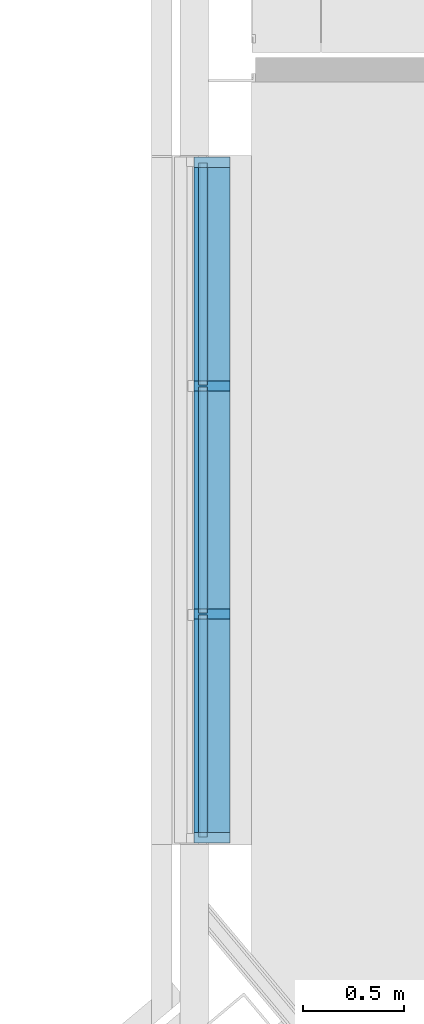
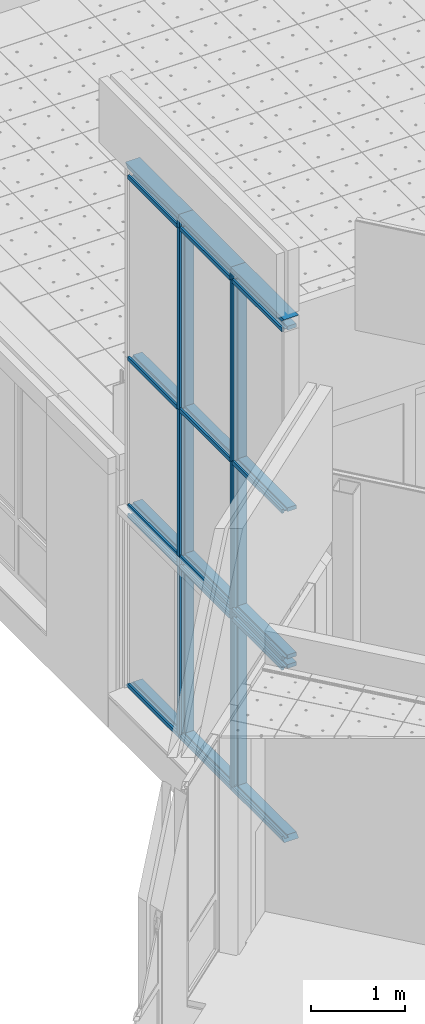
# One storey, part 1 of 338: 28 members, 1 element without a shape of its own.
"""IFC2X3 building model written with IfcOpenShell, lengths in millimetres."""

from ifc_helpers import new_model, entity, si_unit, converted_unit, derived_unit, money_unit, direction, frame, origin_with_axes, place, context, subcontext, project, spatial, faceted_brep, source, transform, mapped, material, type_object, type_shapes, element, aggregate, save


model = new_model("IFC2X3")

# Units and contexts
model_context = context("Model", 3, precision=0.01, world=origin_with_axes(), true_north=direction((0.0, 1.0)))
plan_context = context("Plan", 3, precision=0.01, world=origin_with_axes(), true_north=direction((0.0, 1.0)))
body_context = subcontext(model_context, "Body", "Model", "MODEL_VIEW")
ifc_project = project(units=[si_unit("LENGTHUNIT", "METRE", prefix="MILLI"), si_unit("AREAUNIT", "SQUARE_METRE"), si_unit("VOLUMEUNIT", "CUBIC_METRE"), converted_unit("PLANEANGLEUNIT", "DEGREE", entity("IfcPlaneAngleMeasure", 0.0174532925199), si_unit("PLANEANGLEUNIT", "RADIAN"), dimensions=[0, 0, 0, 0, 0, 0, 0]), money_unit("EUR"), converted_unit("TIMEUNIT", "Year", entity("IfcTimeMeasure", 31556926.0), si_unit("TIMEUNIT", "SECOND"), dimensions=[0, 0, 1, 0, 0, 0, 0]), si_unit("MASSUNIT", "GRAM", prefix="KILO"), si_unit("THERMODYNAMICTEMPERATUREUNIT", "DEGREE_CELSIUS"), si_unit("LUMINOUSINTENSITYUNIT", "LUMEN"), si_unit("ENERGYUNIT", "JOULE", prefix="MEGA"), derived_unit("THERMALCONDUCTANCEUNIT", [(si_unit("POWERUNIT", "WATT"), 1), (si_unit("LENGTHUNIT", "METRE"), -1), (si_unit("THERMODYNAMICTEMPERATUREUNIT", "KELVIN"), -1)]), derived_unit("SPECIFICHEATCAPACITYUNIT", [(si_unit("ENERGYUNIT", "JOULE"), 1), (si_unit("MASSUNIT", "GRAM", prefix="KILO"), -1), (si_unit("THERMODYNAMICTEMPERATUREUNIT", "KELVIN"), -1)]), derived_unit("MASSDENSITYUNIT", [(si_unit("MASSUNIT", "GRAM", prefix="KILO"), 1), (si_unit("VOLUMEUNIT", "CUBIC_METRE"), -1)])], contexts=[model_context, plan_context])

# Site, building, storey
site_placement = place(None, origin_with_axes())
site = spatial("IfcSite", under=ifc_project, at=site_placement, Name="Fortuinstraat Woensdrecht", CompositionType="ELEMENT")
building_placement = place(site_placement, origin_with_axes())
building = spatial("IfcBuilding", under=site, at=building_placement, Name="IKC Fortuna", CompositionType="ELEMENT")
storey_placement = place(building_placement, origin_with_axes())
storey = spatial("IfcBuildingStorey", under=building, at=storey_placement, Name="00 begane grond", CompositionType="ELEMENT", Elevation=0.0)

# Curtain wall, members
curtain_wall_type = type_object("IfcCurtainWallType", Name="Curtain Wall Type", PredefinedType="NOTDEFINED")
curtain_wall_placement = place(storey_placement, frame((13569.9121752, 15129.2768159, -0.000250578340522), z_axis=(0.0, 0.0, 1.0), x_axis=(1.0, 0.0, 0.0)))
curtain_wall = element("IfcCurtainWall", 1, at=curtain_wall_placement, inside=storey, type_object=curtain_wall_type, Name="21_Vliesgevel_Vliesgevel")
ifc_material = material(Name="ALG - ALGEMEEN")
member_type_1 = type_object("IfcMemberType", Name="Boundary Frame 50 x 180", PredefinedType="MULLION")
shared_shape_1 = source(origin_with_axes(), body_context, "Body", "Brep", [
    faceted_brep([(30.0, -22.0, 1100.00008352), (30.0, 22.0, 1100.00008352), (50.0, 22.0, 1080.00008352), (50.0, 46.5, 1080.00008352), (0.0, 46.5, 1130.00008352), (0.0, -133.5, 1130.00008352), (50.0, -133.5, 1080.00008352), (50.0, -22.0, 1080.00008352), (30.0, -22.0, 0.0), (30.0, 22.0, 0.0), (50.0, 22.0, 0.0), (50.0, 46.5, 0.0), (0.0, 46.5, 0.0), (0.0, -133.5, 0.0), (50.0, -133.5, 0.0), (50.0, -22.0, 0.0)], [[[0, 1, 2, 3, 4, 5, 6, 7]], [[1, 0, 8, 9]], [[10, 2, 1, 9]], [[2, 10, 11, 3]], [[12, 4, 3, 11]], [[13, 5, 4, 12]], [[14, 6, 5, 13]], [[15, 7, 6, 14]], [[0, 7, 15, 8]], [[8, 15, 14, 13, 12, 11, 10, 9]]]),
])
member_1_placement = place(curtain_wall_placement, frame((0.0, -1688.86262301, 0.0), z_axis=(0.0, -1.0, 0.0), x_axis=(0.0, 0.0, 1.0)))
member_1 = element("IfcMember", 2, at=member_1_placement, type_object=member_type_1, material=ifc_material, Name="_Vliesgevel - kader_Kader-x", ObjectType="MULLION", context=body_context, shape_type="MappedRepresentation", body=[
    mapped(shared_shape_1, transform((0.0, 0.0, 0.0))),
])
member_2_placement = place(curtain_wall_placement, frame((0.0, -565.0, 6800.00002205), z_axis=(0.0, 1.0, 0.0), x_axis=(0.0, 0.0, -1.0)))
member_2 = element("IfcMember", 3, at=member_2_placement, type_object=member_type_1, material=ifc_material, Name="_Vliesgevel - kader_Kader-x", ObjectType="MULLION", context=body_context, shape_type="MappedRepresentation", body=[
    mapped(shared_shape_1, transform((0.0, 0.0, 0.0))),
])
member_type_2 = type_object("IfcMemberType", Name="Mullion Frame 50 x 180", PredefinedType="MULLION")
shared_shape_2 = source(origin_with_axes(), body_context, "Body", "Brep", [
    faceted_brep([(-5.0, -22.0, 1914.5), (-25.0, -22.0, 1914.5), (-25.0, -133.5, 1914.5), (25.0, -133.5, 1914.5), (25.0, -22.0, 1914.5), (5.0, -22.0, 1914.5), (5.0, 22.0, 1914.5), (25.0, 22.0, 1914.5), (25.0, 46.5, 1914.5), (-25.0, 46.5, 1914.5), (-25.0, 22.0, 1914.5), (-5.0, 22.0, 1914.5), (-5.0, -22.0, 0.0), (-25.0, -22.0, 0.0), (-25.0, -133.5, 0.0), (25.0, -133.5, 0.0), (25.0, -22.0, 0.0), (5.0, -22.0, 0.0), (5.0, 22.0, 0.0), (25.0, 22.0, 0.0), (25.0, 46.5, 0.0), (-25.0, 46.5, 0.0), (-25.0, 22.0, 0.0), (-5.0, 22.0, 0.0)], [[[0, 1, 2, 3, 4, 5, 6, 7, 8, 9, 10, 11]], [[1, 0, 12, 13]], [[1, 13, 14, 2]], [[3, 2, 14, 15]], [[4, 3, 15, 16]], [[4, 16, 17, 5]], [[5, 17, 18, 6]], [[7, 6, 18, 19]], [[19, 20, 8, 7]], [[9, 8, 20, 21]], [[22, 10, 9, 21]], [[11, 10, 22, 23]], [[0, 11, 23, 12]], [[23, 22, 21, 20, 19, 18, 17, 16, 15, 14, 13, 12]]]),
])
member_3_placement = place(curtain_wall_placement, frame((0.0, -565.0, 2360.5), z_axis=(0.0, 0.0, 1.0), x_axis=(0.0, 1.0, 0.0)))
member_3 = element("IfcMember", 4, at=member_3_placement, type_object=member_type_2, material=ifc_material, Name="_Vliesgevel - kader_Kader-x", ObjectType="MULLION", context=body_context, shape_type="MappedRepresentation", body=[
    mapped(shared_shape_2, transform((0.0, 0.0, 0.0))),
])
member_4_placement = place(curtain_wall_placement, frame((0.0, -1688.86262301, 2360.5), z_axis=(0.0, 0.0, 1.0), x_axis=(0.0, 1.0, 0.0)))
member_4 = element("IfcMember", 5, at=member_4_placement, type_object=member_type_2, material=ifc_material, Name="_Vliesgevel - kader_Kader-x", ObjectType="MULLION", context=body_context, shape_type="MappedRepresentation", body=[
    mapped(shared_shape_2, transform((0.0, 0.0, 0.0))),
])
shared_shape_3 = source(origin_with_axes(), body_context, "Body", "Brep", [
    faceted_brep([(30.0, -22.0, 1130.0), (30.0, 22.0, 1130.0), (50.0, 22.0, 1130.0), (50.0, 46.5, 1130.0), (0.0, 46.5, 1130.0), (0.0, -133.5, 1130.0), (50.0, -133.5, 1130.0), (50.0, -22.0, 1130.0), (30.0, -22.0, 30.0), (30.0, 22.0, 30.0), (50.0, 22.0, 50.0), (50.0, 46.5, 50.0), (0.0, 46.5, 0.0), (0.0, -133.5, 0.0), (50.0, -133.5, 50.0), (50.0, -22.0, 50.0)], [[[0, 1, 2, 3, 4, 5, 6, 7]], [[1, 0, 8, 9]], [[10, 2, 1, 9]], [[2, 10, 11, 3]], [[4, 3, 11, 12]], [[5, 4, 12, 13]], [[6, 5, 13, 14]], [[15, 7, 6, 14]], [[0, 7, 15, 8]], [[8, 15, 14, 13, 12, 11, 10, 9]]]),
])
member_5_placement = place(curtain_wall_placement, frame((0.0, -2818.86262301, 6800.00002205), z_axis=(0.0, 1.0, 0.0), x_axis=(0.0, 0.0, -1.0)))
member_5 = element("IfcMember", 6, at=member_5_placement, type_object=member_type_1, material=ifc_material, Name="_Vliesgevel - kader_Kader-x", ObjectType="MULLION", context=body_context, shape_type="MappedRepresentation", body=[
    mapped(shared_shape_3, transform((0.0, 0.0, 0.0))),
])
member_6_placement = place(curtain_wall_placement, frame((0.0, 565.0, 0.0), z_axis=(0.0, -1.0, 0.0), x_axis=(0.0, 0.0, 1.0)))
member_6 = element("IfcMember", 7, at=member_6_placement, type_object=member_type_1, material=ifc_material, Name="_Vliesgevel - kader_Kader-x", ObjectType="MULLION", context=body_context, shape_type="MappedRepresentation", body=[
    mapped(shared_shape_3, transform((0.0, 0.0, 0.0))),
])
member_type_3 = type_object("IfcMemberType", Name="Transom Frame 50 x 180", PredefinedType="MULLION")
shared_shape_4 = source(origin_with_axes(), body_context, "Body", "Brep", [
    faceted_brep([(-5.0, -22.0, 1098.86262301), (-25.0, -22.0, 1098.86262301), (-25.0, -133.5, 1098.86262301), (25.0, -133.5, 1098.86262301), (25.0, -22.0, 1098.86262301), (5.0, -22.0, 1098.86262301), (5.0, 22.0, 1098.86262301), (25.0, 22.0, 1098.86262301), (25.0, 46.5, 1098.86262301), (-25.0, 46.5, 1098.86262301), (-25.0, 22.0, 1098.86262301), (-5.0, 22.0, 1098.86262301), (-5.0, -22.0, 25.0), (-25.0, -22.0, 25.0), (-25.0, -133.5, 25.0), (25.0, -133.5, 25.0), (25.0, -22.0, 25.0), (5.0, -22.0, 25.0), (5.0, 22.0, 25.0), (25.0, 22.0, 25.0), (25.0, 46.5, 25.0), (-25.0, 46.5, 25.0), (-25.0, 22.0, 25.0), (-5.0, 22.0, 25.0)], [[[0, 1, 2, 3, 4, 5, 6, 7, 8, 9, 10, 11]], [[1, 0, 12, 13]], [[1, 13, 14, 2]], [[2, 14, 15, 3]], [[4, 3, 15, 16]], [[4, 16, 17, 5]], [[5, 17, 18, 6]], [[7, 6, 18, 19]], [[19, 20, 8, 7]], [[8, 20, 21, 9]], [[22, 10, 9, 21]], [[11, 10, 22, 23]], [[0, 11, 23, 12]], [[23, 22, 21, 20, 19, 18, 17, 16, 15, 14, 13, 12]]]),
])
member_7_placement = place(curtain_wall_placement, frame((0.0, -565.0, 6635.0), z_axis=(0.0, -1.0, 0.0), x_axis=(0.0, 0.0, 1.0)))
member_7 = element("IfcMember", 8, at=member_7_placement, type_object=member_type_3, material=ifc_material, Name="_Vliesgevel - kader_Kader-x", ObjectType="MULLION", context=body_context, shape_type="MappedRepresentation", body=[
    mapped(shared_shape_4, transform((0.0, 0.0, 0.0))),
])
member_8_placement = place(curtain_wall_placement, frame((0.0, -565.0, 4275.0), z_axis=(0.0, -1.0, 0.0), x_axis=(0.0, 0.0, 1.0)))
member_8 = element("IfcMember", 9, at=member_8_placement, type_object=member_type_3, material=ifc_material, Name="_Vliesgevel - kader_Kader-x", ObjectType="MULLION", context=body_context, shape_type="MappedRepresentation", body=[
    mapped(shared_shape_4, transform((0.0, 0.0, 0.0))),
])
member_9_placement = place(curtain_wall_placement, frame((0.0, -565.0, 2360.5), z_axis=(0.0, -1.0, 0.0), x_axis=(0.0, 0.0, 1.0)))
member_9 = element("IfcMember", 10, at=member_9_placement, type_object=member_type_3, material=ifc_material, Name="_Vliesgevel - kader_Kader-x", ObjectType="MULLION", context=body_context, shape_type="MappedRepresentation", body=[
    mapped(shared_shape_4, transform((0.0, 0.0, 0.0))),
])
member_10_placement = place(curtain_wall_placement, frame((0.0, -565.0, 2236.5), z_axis=(0.0, -1.0, 0.0), x_axis=(0.0, 0.0, 1.0)))
member_10 = element("IfcMember", 11, at=member_10_placement, type_object=member_type_3, material=ifc_material, Name="_Vliesgevel - kader_Kader-x", ObjectType="MULLION", context=body_context, shape_type="MappedRepresentation", body=[
    mapped(shared_shape_4, transform((0.0, 0.0, 0.0))),
])
shared_shape_5 = source(origin_with_axes(), body_context, "Body", "Brep", [
    faceted_brep([(-5.0, -22.0, 124.0), (-25.0, -22.0, 124.0), (-25.0, -133.5, 124.0), (25.0, -133.5, 124.0), (25.0, -22.0, 124.0), (5.0, -22.0, 124.0), (5.0, 22.0, 124.0), (25.0, 22.0, 124.0), (25.0, 46.5, 124.0), (-25.0, 46.5, 124.0), (-25.0, 22.0, 124.0), (-5.0, 22.0, 124.0), (-5.0, -22.0, 0.0), (-25.0, -22.0, 0.0), (-25.0, -133.5, 0.0), (25.0, -133.5, 0.0), (25.0, -22.0, 0.0), (5.0, -22.0, 0.0), (5.0, 22.0, 0.0), (25.0, 22.0, 0.0), (25.0, 46.5, 0.0), (-25.0, 46.5, 0.0), (-25.0, 22.0, 0.0), (-5.0, 22.0, 0.0)], [[[0, 1, 2, 3, 4, 5, 6, 7, 8, 9, 10, 11]], [[1, 0, 12, 13]], [[1, 13, 14, 2]], [[3, 2, 14, 15]], [[4, 3, 15, 16]], [[4, 16, 17, 5]], [[5, 17, 18, 6]], [[7, 6, 18, 19]], [[19, 20, 8, 7]], [[9, 8, 20, 21]], [[22, 10, 9, 21]], [[11, 10, 22, 23]], [[0, 11, 23, 12]], [[23, 22, 21, 20, 19, 18, 17, 16, 15, 14, 13, 12]]]),
])
member_11_placement = place(curtain_wall_placement, frame((0.0, -565.0, 2236.5), z_axis=(0.0, 0.0, 1.0), x_axis=(0.0, 1.0, 0.0)))
member_11 = element("IfcMember", 12, at=member_11_placement, type_object=member_type_2, material=ifc_material, Name="_Vliesgevel - kader_Kader-x", ObjectType="MULLION", context=body_context, shape_type="MappedRepresentation", body=[
    mapped(shared_shape_5, transform((0.0, 0.0, 0.0))),
])
member_12_placement = place(curtain_wall_placement, frame((0.0, -1688.86262301, 2236.5), z_axis=(0.0, 0.0, 1.0), x_axis=(0.0, 1.0, 0.0)))
member_12 = element("IfcMember", 13, at=member_12_placement, type_object=member_type_2, material=ifc_material, Name="_Vliesgevel - kader_Kader-x", ObjectType="MULLION", context=body_context, shape_type="MappedRepresentation", body=[
    mapped(shared_shape_5, transform((0.0, 0.0, 0.0))),
])
shared_shape_6 = source(origin_with_axes(), body_context, "Body", "Brep", [
    faceted_brep([(-5.0, -22.0, 2236.5), (-25.0, -22.0, 2236.5), (-25.0, -133.5, 2236.5), (25.0, -133.5, 2236.5), (25.0, -22.0, 2236.5), (5.0, -22.0, 2236.5), (5.0, 22.0, 2236.5), (25.0, 22.0, 2236.5), (25.0, 46.5, 2236.5), (-25.0, 46.5, 2236.5), (-25.0, 22.0, 2236.5), (-5.0, 22.0, 2236.5), (-5.0, -22.0, 50.0), (-25.0, -22.0, 50.0), (-25.0, -133.5, 50.0), (25.0, -133.5, 50.0), (25.0, -22.0, 50.0), (5.0, -22.0, 50.0), (5.0, 22.0, 50.0), (25.0, 22.0, 50.0), (25.0, 46.5, 50.0), (-25.0, 46.5, 50.0), (-25.0, 22.0, 50.0), (-5.0, 22.0, 50.0)], [[[0, 1, 2, 3, 4, 5, 6, 7, 8, 9, 10, 11]], [[1, 0, 12, 13]], [[1, 13, 14, 2]], [[2, 14, 15, 3]], [[4, 3, 15, 16]], [[4, 16, 17, 5]], [[5, 17, 18, 6]], [[7, 6, 18, 19]], [[19, 20, 8, 7]], [[8, 20, 21, 9]], [[22, 10, 9, 21]], [[11, 10, 22, 23]], [[0, 11, 23, 12]], [[23, 22, 21, 20, 19, 18, 17, 16, 15, 14, 13, 12]]]),
])
member_13_placement = place(curtain_wall_placement, frame((0.0, -565.0, 0.0), z_axis=(0.0, 0.0, 1.0), x_axis=(0.0, 1.0, 0.0)))
member_13 = element("IfcMember", 14, at=member_13_placement, type_object=member_type_2, material=ifc_material, Name="_Vliesgevel - kader_Kader-x", ObjectType="MULLION", context=body_context, shape_type="MappedRepresentation", body=[
    mapped(shared_shape_6, transform((0.0, 0.0, 0.0))),
])
member_14_placement = place(curtain_wall_placement, frame((0.0, -1688.86262301, 0.0), z_axis=(0.0, 0.0, 1.0), x_axis=(0.0, 1.0, 0.0)))
member_14 = element("IfcMember", 15, at=member_14_placement, type_object=member_type_2, material=ifc_material, Name="_Vliesgevel - kader_Kader-x", ObjectType="MULLION", context=body_context, shape_type="MappedRepresentation", body=[
    mapped(shared_shape_6, transform((0.0, 0.0, 0.0))),
])
shared_shape_7 = source(origin_with_axes(), body_context, "Body", "Brep", [
    faceted_brep([(-5.0, -22.0, 1105.0), (-25.0, -22.0, 1105.0), (-25.0, -133.5, 1105.0), (25.0, -133.5, 1105.0), (25.0, -22.0, 1105.0), (5.0, -22.0, 1105.0), (5.0, 22.0, 1105.0), (25.0, 22.0, 1105.0), (25.0, 46.5, 1105.0), (-25.0, 46.5, 1105.0), (-25.0, 22.0, 1105.0), (-5.0, 22.0, 1105.0), (-5.0, -22.0, 50.0), (-25.0, -22.0, 50.0), (-25.0, -133.5, 50.0), (25.0, -133.5, 50.0), (25.0, -22.0, 50.0), (5.0, -22.0, 50.0), (5.0, 22.0, 50.0), (25.0, 22.0, 50.0), (25.0, 46.5, 50.0), (-25.0, 46.5, 50.0), (-25.0, 22.0, 50.0), (-5.0, 22.0, 50.0)], [[[0, 1, 2, 3, 4, 5, 6, 7, 8, 9, 10, 11]], [[1, 0, 12, 13]], [[1, 13, 14, 2]], [[2, 14, 15, 3]], [[4, 3, 15, 16]], [[4, 16, 17, 5]], [[5, 17, 18, 6]], [[7, 6, 18, 19]], [[19, 20, 8, 7]], [[8, 20, 21, 9]], [[22, 10, 9, 21]], [[11, 10, 22, 23]], [[0, 11, 23, 12]], [[23, 22, 21, 20, 19, 18, 17, 16, 15, 14, 13, 12]]]),
])
member_15_placement = place(curtain_wall_placement, frame((0.0, 565.0, 2236.5), z_axis=(0.0, -1.0, 0.0), x_axis=(0.0, 0.0, 1.0)))
member_15 = element("IfcMember", 16, at=member_15_placement, type_object=member_type_3, material=ifc_material, Name="_Vliesgevel - kader_Kader-x", ObjectType="MULLION", context=body_context, shape_type="MappedRepresentation", body=[
    mapped(shared_shape_7, transform((0.0, 0.0, 0.0))),
])
member_16_placement = place(curtain_wall_placement, frame((0.0, 565.0, 2360.5), z_axis=(0.0, -1.0, 0.0), x_axis=(0.0, 0.0, 1.0)))
member_16 = element("IfcMember", 17, at=member_16_placement, type_object=member_type_3, material=ifc_material, Name="_Vliesgevel - kader_Kader-x", ObjectType="MULLION", context=body_context, shape_type="MappedRepresentation", body=[
    mapped(shared_shape_7, transform((0.0, 0.0, 0.0))),
])
member_17_placement = place(curtain_wall_placement, frame((0.0, 565.0, 6635.0), z_axis=(0.0, -1.0, 0.0), x_axis=(0.0, 0.0, 1.0)))
member_17 = element("IfcMember", 18, at=member_17_placement, type_object=member_type_3, material=ifc_material, Name="_Vliesgevel - kader_Kader-x", ObjectType="MULLION", context=body_context, shape_type="MappedRepresentation", body=[
    mapped(shared_shape_7, transform((0.0, 0.0, 0.0))),
])
member_18_placement = place(curtain_wall_placement, frame((0.0, 565.0, 4275.0), z_axis=(0.0, -1.0, 0.0), x_axis=(0.0, 0.0, 1.0)))
member_18 = element("IfcMember", 19, at=member_18_placement, type_object=member_type_3, material=ifc_material, Name="_Vliesgevel - kader_Kader-x", ObjectType="MULLION", context=body_context, shape_type="MappedRepresentation", body=[
    mapped(shared_shape_7, transform((0.0, 0.0, 0.0))),
])
shared_shape_8 = source(origin_with_axes(), body_context, "Body", "Brep", [
    faceted_brep([(-5.0, -22.0, 1080.00008352), (-25.0, -22.0, 1080.00008352), (-25.0, -133.5, 1080.00008352), (25.0, -133.5, 1080.00008352), (25.0, -22.0, 1080.00008352), (5.0, -22.0, 1080.00008352), (5.0, 22.0, 1080.00008352), (25.0, 22.0, 1080.00008352), (25.0, 46.5, 1080.00008352), (-25.0, 46.5, 1080.00008352), (-25.0, 22.0, 1080.00008352), (-5.0, 22.0, 1080.00008352), (-5.0, -22.0, 25.0), (-25.0, -22.0, 25.0), (-25.0, -133.5, 25.0), (25.0, -133.5, 25.0), (25.0, -22.0, 25.0), (5.0, -22.0, 25.0), (5.0, 22.0, 25.0), (25.0, 22.0, 25.0), (25.0, 46.5, 25.0), (-25.0, 46.5, 25.0), (-25.0, 22.0, 25.0), (-5.0, 22.0, 25.0)], [[[0, 1, 2, 3, 4, 5, 6, 7, 8, 9, 10, 11]], [[1, 0, 12, 13]], [[1, 13, 14, 2]], [[2, 14, 15, 3]], [[4, 3, 15, 16]], [[4, 16, 17, 5]], [[5, 17, 18, 6]], [[7, 6, 18, 19]], [[19, 20, 8, 7]], [[8, 20, 21, 9]], [[22, 10, 9, 21]], [[11, 10, 22, 23]], [[0, 11, 23, 12]], [[23, 22, 21, 20, 19, 18, 17, 16, 15, 14, 13, 12]]]),
])
type_shapes(member_type_3, [shared_shape_4, shared_shape_7, shared_shape_8])
member_19_placement = place(curtain_wall_placement, frame((0.0, -1688.86262301, 2236.5), z_axis=(0.0, -1.0, 0.0), x_axis=(0.0, 0.0, 1.0)))
member_19 = element("IfcMember", 20, at=member_19_placement, type_object=member_type_3, material=ifc_material, Name="_Vliesgevel - kader_Kader-x", ObjectType="MULLION", context=body_context, shape_type="MappedRepresentation", body=[
    mapped(shared_shape_8, transform((0.0, 0.0, 0.0))),
])
member_20_placement = place(curtain_wall_placement, frame((0.0, -1688.86262301, 4275.0), z_axis=(0.0, -1.0, 0.0), x_axis=(0.0, 0.0, 1.0)))
member_20 = element("IfcMember", 21, at=member_20_placement, type_object=member_type_3, material=ifc_material, Name="_Vliesgevel - kader_Kader-x", ObjectType="MULLION", context=body_context, shape_type="MappedRepresentation", body=[
    mapped(shared_shape_8, transform((0.0, 0.0, 0.0))),
])
member_21_placement = place(curtain_wall_placement, frame((0.0, -1688.86262301, 2360.5), z_axis=(0.0, -1.0, 0.0), x_axis=(0.0, 0.0, 1.0)))
member_21 = element("IfcMember", 22, at=member_21_placement, type_object=member_type_3, material=ifc_material, Name="_Vliesgevel - kader_Kader-x", ObjectType="MULLION", context=body_context, shape_type="MappedRepresentation", body=[
    mapped(shared_shape_8, transform((0.0, 0.0, 0.0))),
])
member_22_placement = place(curtain_wall_placement, frame((0.0, -1688.86262301, 6635.0), z_axis=(0.0, -1.0, 0.0), x_axis=(0.0, 0.0, 1.0)))
member_22 = element("IfcMember", 23, at=member_22_placement, type_object=member_type_3, material=ifc_material, Name="_Vliesgevel - kader_Kader-x", ObjectType="MULLION", context=body_context, shape_type="MappedRepresentation", body=[
    mapped(shared_shape_8, transform((0.0, 0.0, 0.0))),
])
shared_shape_9 = source(origin_with_axes(), body_context, "Body", "Brep", [
    faceted_brep([(30.0, -22.0, 1123.86262301), (30.0, 22.0, 1123.86262301), (50.0, 22.0, 1123.86262301), (50.0, 46.5, 1123.86262301), (0.0, 46.5, 1123.86262301), (0.0, -133.5, 1123.86262301), (50.0, -133.5, 1123.86262301), (50.0, -22.0, 1123.86262301), (30.0, -22.0, 0.0), (30.0, 22.0, 0.0), (50.0, 22.0, 0.0), (50.0, 46.5, 0.0), (0.0, 46.5, 0.0), (0.0, -133.5, 0.0), (50.0, -133.5, 0.0), (50.0, -22.0, 0.0)], [[[0, 1, 2, 3, 4, 5, 6, 7]], [[1, 0, 8, 9]], [[10, 2, 1, 9]], [[2, 10, 11, 3]], [[12, 4, 3, 11]], [[13, 5, 4, 12]], [[14, 6, 5, 13]], [[15, 7, 6, 14]], [[0, 7, 15, 8]], [[8, 15, 14, 13, 12, 11, 10, 9]]]),
])
type_shapes(member_type_1, [shared_shape_1, shared_shape_3, shared_shape_9])
member_23_placement = place(curtain_wall_placement, frame((0.0, -565.0, 0.0), z_axis=(0.0, -1.0, 0.0), x_axis=(0.0, 0.0, 1.0)))
member_23 = element("IfcMember", 24, at=member_23_placement, type_object=member_type_1, material=ifc_material, Name="_Vliesgevel - kader_Kader-x", ObjectType="MULLION", context=body_context, shape_type="MappedRepresentation", body=[
    mapped(shared_shape_9, transform((0.0, 0.0, 0.0))),
])
member_24_placement = place(curtain_wall_placement, frame((0.0, -1688.86262301, 6800.00002205), z_axis=(0.0, 1.0, 0.0), x_axis=(0.0, 0.0, -1.0)))
member_24 = element("IfcMember", 25, at=member_24_placement, type_object=member_type_1, material=ifc_material, Name="_Vliesgevel - kader_Kader-x", ObjectType="MULLION", context=body_context, shape_type="MappedRepresentation", body=[
    mapped(shared_shape_9, transform((0.0, 0.0, 0.0))),
])
shared_shape_10 = source(origin_with_axes(), body_context, "Body", "Brep", [
    faceted_brep([(-5.0, -22.0, 115.000022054), (-25.0, -22.0, 115.000022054), (-25.0, -133.5, 115.000022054), (25.0, -133.5, 115.000022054), (25.0, -22.0, 115.000022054), (5.0, -22.0, 115.000022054), (5.0, 22.0, 115.000022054), (25.0, 22.0, 115.000022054), (25.0, 46.5, 115.000022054), (-25.0, 46.5, 115.000022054), (-25.0, 22.0, 115.000022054), (-5.0, 22.0, 115.000022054), (-5.0, -22.0, 0.0), (-25.0, -22.0, 0.0), (-25.0, -133.5, 0.0), (25.0, -133.5, 0.0), (25.0, -22.0, 0.0), (5.0, -22.0, 0.0), (5.0, 22.0, 0.0), (25.0, 22.0, 0.0), (25.0, 46.5, 0.0), (-25.0, 46.5, 0.0), (-25.0, 22.0, 0.0), (-5.0, 22.0, 0.0)], [[[0, 1, 2, 3, 4, 5, 6, 7, 8, 9, 10, 11]], [[1, 0, 12, 13]], [[1, 13, 14, 2]], [[3, 2, 14, 15]], [[4, 3, 15, 16]], [[4, 16, 17, 5]], [[5, 17, 18, 6]], [[7, 6, 18, 19]], [[19, 20, 8, 7]], [[9, 8, 20, 21]], [[22, 10, 9, 21]], [[11, 10, 22, 23]], [[0, 11, 23, 12]], [[23, 22, 21, 20, 19, 18, 17, 16, 15, 14, 13, 12]]]),
])
member_25_placement = place(curtain_wall_placement, frame((0.0, -1688.86262301, 6635.0), z_axis=(0.0, 0.0, 1.0), x_axis=(0.0, 1.0, 0.0)))
member_25 = element("IfcMember", 26, at=member_25_placement, type_object=member_type_2, material=ifc_material, Name="_Vliesgevel - kader_Kader-x", ObjectType="MULLION", context=body_context, shape_type="MappedRepresentation", body=[
    mapped(shared_shape_10, transform((0.0, 0.0, 0.0))),
])
member_26_placement = place(curtain_wall_placement, frame((0.0, -565.0, 6635.0), z_axis=(0.0, 0.0, 1.0), x_axis=(0.0, 1.0, 0.0)))
member_26 = element("IfcMember", 27, at=member_26_placement, type_object=member_type_2, material=ifc_material, Name="_Vliesgevel - kader_Kader-x", ObjectType="MULLION", context=body_context, shape_type="MappedRepresentation", body=[
    mapped(shared_shape_10, transform((0.0, 0.0, 0.0))),
])
shared_shape_11 = source(origin_with_axes(), body_context, "Body", "Brep", [
    faceted_brep([(-5.0, -22.0, 2360.0), (-25.0, -22.0, 2360.0), (-25.0, -133.5, 2360.0), (25.0, -133.5, 2360.0), (25.0, -22.0, 2360.0), (5.0, -22.0, 2360.0), (5.0, 22.0, 2360.0), (25.0, 22.0, 2360.0), (25.0, 46.5, 2360.0), (-25.0, 46.5, 2360.0), (-25.0, 22.0, 2360.0), (-5.0, 22.0, 2360.0), (-5.0, -22.0, 0.0), (-25.0, -22.0, 0.0), (-25.0, -133.5, 0.0), (25.0, -133.5, 0.0), (25.0, -22.0, 0.0), (5.0, -22.0, 0.0), (5.0, 22.0, 0.0), (25.0, 22.0, 0.0), (25.0, 46.5, 0.0), (-25.0, 46.5, 0.0), (-25.0, 22.0, 0.0), (-5.0, 22.0, 0.0)], [[[0, 1, 2, 3, 4, 5, 6, 7, 8, 9, 10, 11]], [[1, 0, 12, 13]], [[1, 13, 14, 2]], [[3, 2, 14, 15]], [[4, 3, 15, 16]], [[4, 16, 17, 5]], [[5, 17, 18, 6]], [[7, 6, 18, 19]], [[19, 20, 8, 7]], [[9, 8, 20, 21]], [[22, 10, 9, 21]], [[11, 10, 22, 23]], [[0, 11, 23, 12]], [[23, 22, 21, 20, 19, 18, 17, 16, 15, 14, 13, 12]]]),
])
type_shapes(member_type_2, [shared_shape_2, shared_shape_5, shared_shape_6, shared_shape_10, shared_shape_11])
member_27_placement = place(curtain_wall_placement, frame((0.0, -1688.86262301, 4275.0), z_axis=(0.0, 0.0, 1.0), x_axis=(0.0, 1.0, 0.0)))
member_27 = element("IfcMember", 28, at=member_27_placement, type_object=member_type_2, material=ifc_material, Name="_Vliesgevel - kader_Kader-x", ObjectType="MULLION", context=body_context, shape_type="MappedRepresentation", body=[
    mapped(shared_shape_11, transform((0.0, 0.0, 0.0))),
])
member_28_placement = place(curtain_wall_placement, frame((0.0, -565.0, 4275.0), z_axis=(0.0, 0.0, 1.0), x_axis=(0.0, 1.0, 0.0)))
member_28 = element("IfcMember", 29, at=member_28_placement, type_object=member_type_2, material=ifc_material, Name="_Vliesgevel - kader_Kader-x", ObjectType="MULLION", context=body_context, shape_type="MappedRepresentation", body=[
    mapped(shared_shape_11, transform((0.0, 0.0, 0.0))),
])
aggregate(curtain_wall, [member_1, member_3, member_5, member_7, member_11, member_13, member_15, member_16, member_19, member_8, member_9, member_6, member_10, member_12, member_23, member_25, member_27, member_17, member_20, member_18, member_28, member_21, member_4, member_26, member_14, member_24, member_22, member_2])

save(model, "model.ifc")
